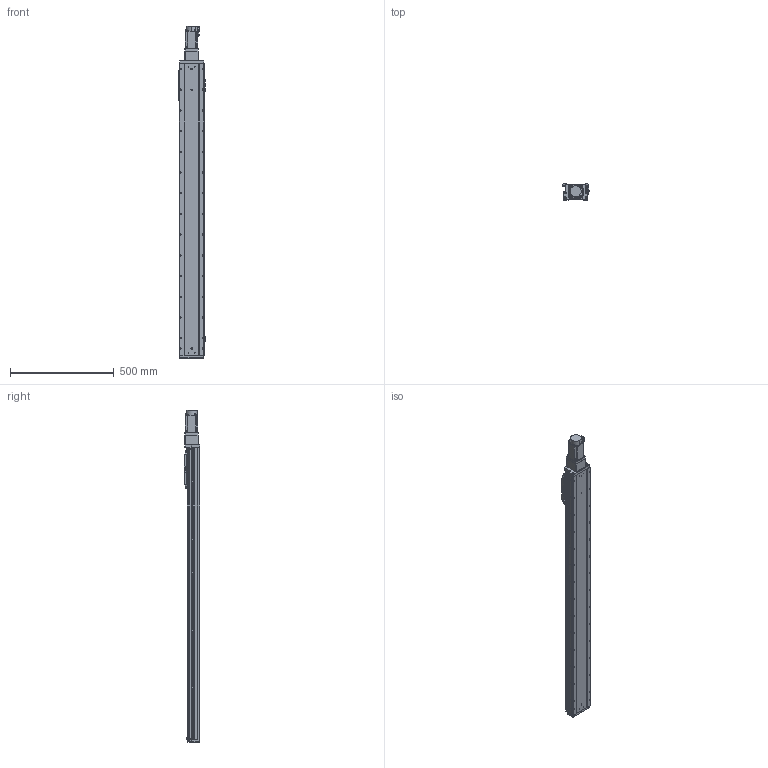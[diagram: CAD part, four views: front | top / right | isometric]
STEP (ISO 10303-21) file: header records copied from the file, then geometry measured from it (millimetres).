
FILE_DESCRIPTION (( 'STEP AP203' ), '1' );
FILE_NAME ('GTH12-1200-BC-M40-C4.step', '2023-08-28T01:04:43', ( '微软用户' ), ( '微软中国' ), 'SwSTEP 2.0', 'SolidWorks 2020', '' );
FILE_SCHEMA (( 'CONFIG_CONTROL_DESIGN' ));
Length unit declared in the file: millimetre
Products named in the file (19): GBT 70.3-M3℅8; CTHA86-006-1_CTHA86-006-2; GTH120-003; GTH80-022; CTHA86-013; GTH120-006; GTH80-028; CTHA86-027; GTH120-004; GTH50-023; hg-kn43j_-s100_; GTH120-013; GTH50-024; GTH12-1200-BC-M40-C4; GBT 70.1-M3℅6; GBT96.1-2002 3×0.8; GBT 70.1-M5×16; BTH-M3X5X6; GTH120-001_1200
Assembly tree (62 placements, depth 2):
  GTH12-1200-BC-M40-C4
    GTH120-001_1200
    GTH120-003
    GTH120-006
    GTH120-004
    GTH120-013
    GBT 70.1-M3℅6  x14
    GBT 70.1-M5×16  x10
    GBT 70.3-M3℅8  x6
    GTH80-022
    GTH80-028  x2
    GTH50-023  x3
    GTH50-024  x3
    GBT96.1-2002 3×0.8  x6
    BTH-M3X5X6  x8
    CTHA86-006-1_CTHA86-006-2
    CTHA86-013
    CTHA86-027
    hg-kn43j_-s100_
Bounding box: 125.7 x 76 x 1603.7 mm (x, y, z)
Volume: 10265137.7 mm3; surface area: 848398.7 mm2
Topology: 64 solids, 64 shells, 2602 faces, 6079 edges, 3709 vertices
Faces by surface type: plane 1304, cylinder 765, cone 355, torus 170, sphere 8
Entity records: 48596 total; most frequent: DIRECTION 8177, CARTESIAN_POINT 7838, ORIENTED_EDGE 7540, EDGE_CURVE 3770, AXIS2_PLACEMENT_3D 2857, LINE 2463, VECTOR 2463, VERTEX_POINT 2368
